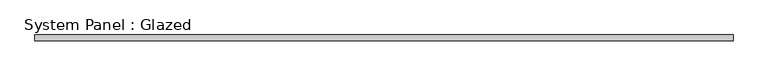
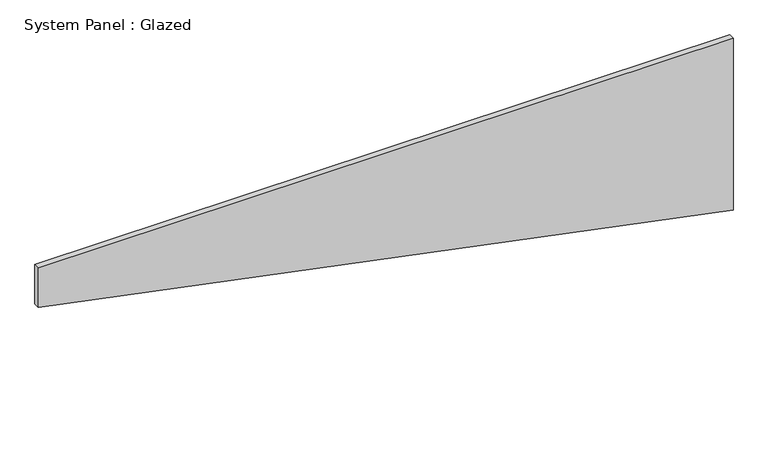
"""IFC4 building model written with IfcOpenShell, lengths in millimetres: plate geometry, System Panel : Glazed."""

import ifcopenshell
import ifcopenshell.guid

model = None  # the IFC model being written
_history = None  # IfcOwnerHistory: only IFC2X3 demands one
_inside = {}  # id of a spatial element -> (the spatial element, [elements in it])
_under = {}  # id of a project, library or spatial element -> (it, [spatial elements below it])
_declared = {}  # id of a project -> (the project, [libraries it declares])
_typed = {}  # id of a type object -> (the type object, [elements of that type])
_made_of = {}  # id of a material, layer set ... -> (it, [elements and type objects made of it])


def new_model(schema):
    """Start an empty IFC model of exactly this schema.

    Asked for "IFC4X3", IfcOpenShell would pick the latest addendum, in which some entities
    have other attributes; the version numbers below select the first issue.
    IFC2X3 requires an IfcOwnerHistory on every rooted entity: one is made here for all.
    """
    global model, _history
    if schema == "IFC4X3":
        model = ifcopenshell.file(schema_version=(4, 3, 0, 0))
    else:
        model = ifcopenshell.file(schema=schema)
    _inside.clear()
    _under.clear()
    _declared.clear()
    _typed.clear()
    _made_of.clear()
    _history = None
    if model.schema == "IFC2X3":
        org = make("IfcOrganization", Name="unknown")
        user = make(
            "IfcPersonAndOrganization",
            ThePerson=make("IfcPerson", FamilyName="unknown"),
            TheOrganization=org,
        )
        app = make(
            "IfcApplication",
            ApplicationDeveloper=org,
            Version="unknown",
            ApplicationFullName="unknown",
            ApplicationIdentifier="unknown",
        )
        _history = make(
            "IfcOwnerHistory",
            OwningUser=user,
            OwningApplication=app,
            ChangeAction="ADDED",
            CreationDate=0,
        )
    return model


def make(cls, **values):
    """One entity of the class cls with the attributes given. An attribute that is None is left unset."""
    return model.create_entity(
        cls, **{name: value for name, value in values.items() if value is not None}
    )


def rooted(cls, **values):
    """An entity with a GlobalId (a new one), such as an element, a storey or a relation."""
    return make(cls, GlobalId=ifcopenshell.guid.new(), OwnerHistory=_history, **values)


def si_unit(unit_type, name, prefix=None):
    """IfcSIUnit, for example si_unit("LENGTHUNIT", "METRE", prefix="MILLI")."""
    return make("IfcSIUnit", UnitType=unit_type, Prefix=prefix, Name=name)


def assignment(units):
    """IfcUnitAssignment: the units of a project."""
    return None if units is None else make("IfcUnitAssignment", Units=units)


def point(xyz):
    """IfcCartesianPoint."""
    return None if xyz is None else make("IfcCartesianPoint", Coordinates=xyz)


def direction(xyz):
    """IfcDirection."""
    return None if xyz is None else make("IfcDirection", DirectionRatios=xyz)


def frame(location, z_axis=None, x_axis=None):
    """IfcAxis2Placement3D, a coordinate frame: its origin and axes. An axis left out is left unset."""
    return make(
        "IfcAxis2Placement3D",
        Location=point(location),
        Axis=direction(z_axis),
        RefDirection=direction(x_axis),
    )


def origin():
    """The frame at (0, 0, 0) with its axes left unset."""
    return frame((0.0, 0.0, 0.0))


def place(relative_to, where):
    """IfcLocalPlacement: puts the frame where relative to a parent placement (None: the world)."""
    return make(
        "IfcLocalPlacement", PlacementRelTo=relative_to, RelativePlacement=where
    )


def context(
    kind, dimensions, precision=None, world=None, true_north=None, identifier=None
):
    """IfcGeometricRepresentationContext, for example the 3D "Model" context."""
    return make(
        "IfcGeometricRepresentationContext",
        ContextIdentifier=identifier,
        ContextType=kind,
        CoordinateSpaceDimension=dimensions,
        Precision=precision,
        WorldCoordinateSystem=world,
        TrueNorth=true_north,
    )


def project(units=None, contexts=None):
    """IfcProject with its units and contexts."""
    return rooted(
        "IfcProject",
        Name="project",
        RepresentationContexts=contexts,
        UnitsInContext=assignment(units),
    )


def spatial(cls, under=None, at=None, **own):
    """A site, building, storey or space (cls), placed at a placement, below another one or the project."""
    s = rooted(cls, ObjectPlacement=at, **own)
    if under is not None:
        _under.setdefault(under.id(), (under, []))[1].append(s)
    return s


def polyline(points):
    """IfcPolyline through the points."""
    return make("IfcPolyline", Points=[point(p) for p in points])


def outline(outer, holes=None, kind="AREA"):
    """IfcArbitraryClosedProfileDef: a profile drawn as a closed curve; with holes, ...WithVoids."""
    if holes is None:
        return make("IfcArbitraryClosedProfileDef", ProfileType=kind, OuterCurve=outer)
    return make(
        "IfcArbitraryProfileDefWithVoids",
        ProfileType=kind,
        OuterCurve=outer,
        InnerCurves=holes,
    )


def extrude(swept, where, along, depth):
    """IfcExtrudedAreaSolid: the profile swept, set in the frame where, extruded along a direction by depth."""
    return make(
        "IfcExtrudedAreaSolid",
        SweptArea=swept,
        Position=where,
        ExtrudedDirection=direction(along),
        Depth=depth,
    )


def shape(context_of_items, identifier, shape_type, items):
    """IfcShapeRepresentation: the items that make up one representation, for example the "Body"."""
    return make(
        "IfcShapeRepresentation",
        ContextOfItems=context_of_items,
        RepresentationIdentifier=identifier,
        RepresentationType=shape_type,
        Items=items,
    )


def source(mapping_origin, context_of_items, identifier, shape_type, items):
    """IfcRepresentationMap: a shape defined once, which mapped items show again and again."""
    return make(
        "IfcRepresentationMap",
        MappingOrigin=mapping_origin,
        MappedRepresentation=shape(context_of_items, identifier, shape_type, items),
    )


def transform(
    local_origin,
    x_axis=None,
    y_axis=None,
    z_axis=None,
    scale=None,
    scale2=None,
    scale3=None,
    uniform=True,
):
    """IfcCartesianTransformationOperator3D, or its non-uniform kind. x_axis, y_axis, z_axis: its Axis1, 2, 3."""
    if uniform:
        return make(
            "IfcCartesianTransformationOperator3D",
            Axis1=direction(x_axis),
            Axis2=direction(y_axis),
            LocalOrigin=point(local_origin),
            Scale=scale,
            Axis3=direction(z_axis),
        )
    return make(
        "IfcCartesianTransformationOperator3DnonUniform",
        Axis1=direction(x_axis),
        Axis2=direction(y_axis),
        LocalOrigin=point(local_origin),
        Scale=scale,
        Axis3=direction(z_axis),
        Scale2=scale2,
        Scale3=scale3,
    )


def mapped(mapping_source, mapping_target):
    """IfcMappedItem: shows the shape of a source again, moved by a transform."""
    return make(
        "IfcMappedItem", MappingSource=mapping_source, MappingTarget=mapping_target
    )


def made_of(thing, what):
    """Note that an element or type object is made of a material, layer set ...; save() writes the relation."""
    if what is not None:
        _made_of.setdefault(what.id(), (what, []))[1].append(thing)
    return thing


def element(
    cls,
    number,
    at=None,
    inside=None,
    cuts=None,
    type_object=None,
    material=None,
    context=None,
    identifier="Body",
    shape_type=None,
    held_by="IfcProductDefinitionShape",
    body=None,
    shapes=None,
    **own,
):
    """One element of the class cls, such as IfcWall. Its Tag is "e" and its number.

    at: its placement. inside: the storey or other place that contains it. cuts: it is an
    opening in that element (IfcRelVoidsElement). A single representation is given by context,
    identifier, shape_type and body (its items); several are given by shapes. held_by: the class
    of the entity that holds the representations. save() writes the other relations.
    """
    e = rooted(cls, Tag="e%d" % number, ObjectPlacement=at, **own)
    if body is not None:
        shapes = [shape(context, identifier, shape_type, body)]
    if shapes is not None:
        e.Representation = make(held_by, Representations=shapes)
    if inside is not None:
        _inside.setdefault(inside.id(), (inside, []))[1].append(e)
    if cuts is not None:
        rooted(
            "IfcRelVoidsElement", RelatingBuildingElement=cuts, RelatedOpeningElement=e
        )
    if type_object is not None:
        _typed.setdefault(type_object.id(), (type_object, []))[1].append(e)
    return made_of(e, material)


def aggregate(whole, parts):
    """IfcRelAggregates: a whole, such as a stair, and the parts it consists of."""
    return rooted("IfcRelAggregates", RelatingObject=whole, RelatedObjects=parts)


def save(model, path):
    """Write the relations noted so far, then the file.

    IfcRelAggregates (storeys below a building ...), IfcRelContainedInSpatialStructure (elements
    in a storey), IfcRelDefinesByType, IfcRelAssociatesMaterial and IfcRelDeclares: one each for
    every whole, place, type object, material and project.
    """
    for whole, parts in _under.values():
        aggregate(whole, parts)
    for where, things in _inside.values():
        rooted(
            "IfcRelContainedInSpatialStructure",
            RelatedElements=things,
            RelatingStructure=where,
        )
    for kind, things in _typed.values():
        rooted("IfcRelDefinesByType", RelatedObjects=things, RelatingType=kind)
    for what, things in _made_of.values():
        rooted("IfcRelAssociatesMaterial", RelatedObjects=things, RelatingMaterial=what)
    for by, libraries in _declared.values():
        rooted("IfcRelDeclares", RelatingContext=by, RelatedDefinitions=libraries)
    model.write(path)


def system_panel_glazed_4946ea4e(model_context):
    return source(origin(), model_context, "Body", "SweptSolid", [
        extrude(outline(polyline([(607.2730434, -1504.95), (0.0, 1504.95), (786.613583, 1504.95), (786.613583, -1504.95), (607.2730434, -1504.95)])), frame((0.0, 19.05, 0.0), z_axis=(0.0, 1.0, 0.0), x_axis=(0.0, 0.0, 1.0)), (0.0, 0.0, 1.0), 25.4),
    ])


if __name__ == "__main__":
    model = new_model("IFC4")
    model_context = context("Model", 3, world=origin())
    ifc_project = project(units=[si_unit("LENGTHUNIT", "METRE", prefix="MILLI")], contexts=[model_context])
    site = spatial("IfcSite", under=ifc_project)
    building = spatial("IfcBuilding", under=site)
    placement = place(None, origin())
    system_panel_glazed_shape = system_panel_glazed_4946ea4e(model_context)
    element("IfcPlate", 1, ObjectType="System Panel : Glazed", at=placement, inside=building, context=model_context, shape_type="MappedRepresentation", body=[
        mapped(system_panel_glazed_shape, transform((0.0, 0.0, 0.0), x_axis=(1.0, 0.0, 0.0), y_axis=(0.0, 1.0, 0.0), z_axis=(0.0, 0.0, 1.0))),
    ])
    save(model, "model.ifc")
